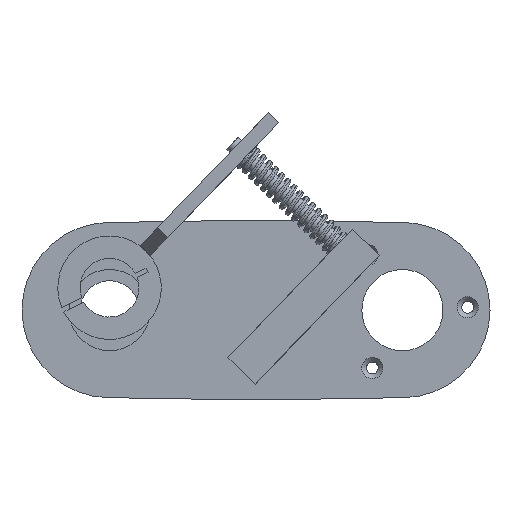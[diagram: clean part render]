
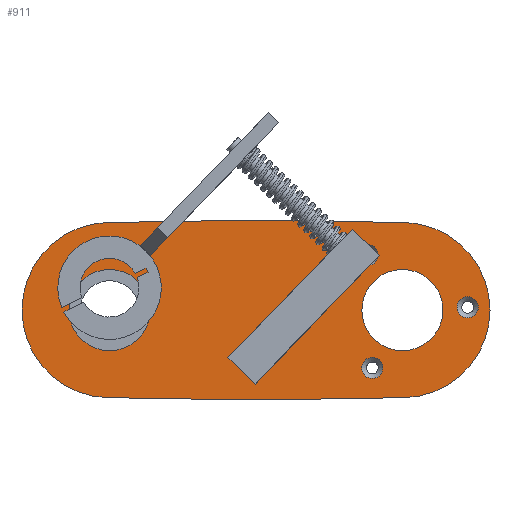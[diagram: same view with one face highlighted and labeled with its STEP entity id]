
A CAD part, front view. The second image highlights one B-rep face of the part: STEP entity #911.
In plain terms, the highlighted planar face has unit normal (0, -1, 0).
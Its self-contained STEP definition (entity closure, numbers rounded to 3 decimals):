
#15=FACE_BOUND('',#353,.T.);
#16=FACE_BOUND('',#354,.T.);
#17=FACE_BOUND('',#355,.T.);
#18=FACE_BOUND('',#356,.T.);
#19=FACE_BOUND('',#357,.T.);
#20=FACE_BOUND('',#358,.T.);
#69=LINE('',#8636,#143);
#70=LINE('',#8638,#144);
#71=LINE('',#8640,#145);
#72=LINE('',#8641,#146);
#143=VECTOR('',#1134,10.);
#144=VECTOR('',#1135,10.);
#145=VECTOR('',#1136,10.);
#146=VECTOR('',#1137,10.);
#216=PLANE('',#993);
#247=CIRCLE('',#991,4.5);
#249=CIRCLE('',#994,37.25);
#250=CIRCLE('',#995,2621.);
#251=CIRCLE('',#996,37.25);
#252=CIRCLE('',#997,2621.);
#253=CIRCLE('',#998,4.5);
#254=CIRCLE('',#999,17.25);
#255=CIRCLE('',#1000,17.25);
#256=CIRCLE('',#1001,4.5);
#294=FACE_OUTER_BOUND('',#352,.T.);
#352=EDGE_LOOP('',(#685,#686,#687,#688));
#353=EDGE_LOOP('',(#689));
#354=EDGE_LOOP('',(#690));
#355=EDGE_LOOP('',(#691));
#356=EDGE_LOOP('',(#692,#693,#694,#695));
#357=EDGE_LOOP('',(#696));
#358=EDGE_LOOP('',(#697));
#443=VERTEX_POINT('',#8614);
#445=VERTEX_POINT('',#8620);
#446=VERTEX_POINT('',#8621);
#447=VERTEX_POINT('',#8623);
#448=VERTEX_POINT('',#8625);
#449=VERTEX_POINT('',#8628);
#450=VERTEX_POINT('',#8630);
#451=VERTEX_POINT('',#8632);
#452=VERTEX_POINT('',#8634);
#453=VERTEX_POINT('',#8635);
#454=VERTEX_POINT('',#8637);
#455=VERTEX_POINT('',#8639);
#456=VERTEX_POINT('',#8642);
#534=EDGE_CURVE('',#443,#443,#247,.T.);
#537=EDGE_CURVE('',#445,#446,#249,.T.);
#538=EDGE_CURVE('',#446,#447,#250,.T.);
#539=EDGE_CURVE('',#447,#448,#251,.T.);
#540=EDGE_CURVE('',#448,#445,#252,.T.);
#541=EDGE_CURVE('',#449,#449,#253,.T.);
#542=EDGE_CURVE('',#450,#450,#254,.T.);
#543=EDGE_CURVE('',#451,#451,#255,.T.);
#544=EDGE_CURVE('',#452,#453,#69,.T.);
#545=EDGE_CURVE('',#453,#454,#70,.T.);
#546=EDGE_CURVE('',#454,#455,#71,.T.);
#547=EDGE_CURVE('',#455,#452,#72,.T.);
#548=EDGE_CURVE('',#456,#456,#256,.T.);
#685=ORIENTED_EDGE('',*,*,#537,.T.);
#686=ORIENTED_EDGE('',*,*,#538,.T.);
#687=ORIENTED_EDGE('',*,*,#539,.T.);
#688=ORIENTED_EDGE('',*,*,#540,.T.);
#689=ORIENTED_EDGE('',*,*,#541,.F.);
#690=ORIENTED_EDGE('',*,*,#542,.T.);
#691=ORIENTED_EDGE('',*,*,#543,.T.);
#692=ORIENTED_EDGE('',*,*,#544,.T.);
#693=ORIENTED_EDGE('',*,*,#545,.T.);
#694=ORIENTED_EDGE('',*,*,#546,.T.);
#695=ORIENTED_EDGE('',*,*,#547,.T.);
#696=ORIENTED_EDGE('',*,*,#548,.F.);
#697=ORIENTED_EDGE('',*,*,#534,.F.);
#911=ADVANCED_FACE('',(#294,#15,#16,#17,#18,#19,#20),#216,.T.);
#991=AXIS2_PLACEMENT_3D('',#8615,#1113,#1114);
#993=AXIS2_PLACEMENT_3D('',#8619,#1118,#1119);
#994=AXIS2_PLACEMENT_3D('',#8622,#1120,#1121);
#995=AXIS2_PLACEMENT_3D('',#8624,#1122,#1123);
#996=AXIS2_PLACEMENT_3D('',#8626,#1124,#1125);
#997=AXIS2_PLACEMENT_3D('',#8627,#1126,#1127);
#998=AXIS2_PLACEMENT_3D('',#8629,#1128,#1129);
#999=AXIS2_PLACEMENT_3D('',#8631,#1130,#1131);
#1000=AXIS2_PLACEMENT_3D('',#8633,#1132,#1133);
#1001=AXIS2_PLACEMENT_3D('',#8643,#1138,#1139);
#1113=DIRECTION('center_axis',(0.,-1.,0.));
#1114=DIRECTION('ref_axis',(1.,0.,0.));
#1118=DIRECTION('center_axis',(0.,-1.,0.));
#1119=DIRECTION('ref_axis',(1.,0.,0.));
#1120=DIRECTION('center_axis',(0.,-1.,0.));
#1121=DIRECTION('ref_axis',(-0.024,0.,1.));
#1122=DIRECTION('center_axis',(0.,-1.,0.));
#1123=DIRECTION('ref_axis',(-0.024,0.,-1.));
#1124=DIRECTION('center_axis',(0.,-1.,0.));
#1125=DIRECTION('ref_axis',(0.024,0.,-1.));
#1126=DIRECTION('center_axis',(0.,-1.,0.));
#1127=DIRECTION('ref_axis',(0.024,0.,1.));
#1128=DIRECTION('center_axis',(0.,-1.,0.));
#1129=DIRECTION('ref_axis',(1.,0.,0.));
#1130=DIRECTION('center_axis',(0.,1.,0.));
#1131=DIRECTION('ref_axis',(1.,0.,0.));
#1132=DIRECTION('center_axis',(0.,1.,0.));
#1133=DIRECTION('ref_axis',(1.,0.,0.));
#1134=DIRECTION('',(-0.719,0.,0.695));
#1135=DIRECTION('',(0.695,0.,0.719));
#1136=DIRECTION('',(0.719,0.,-0.695));
#1137=DIRECTION('',(-0.695,0.,-0.719));
#1138=DIRECTION('center_axis',(0.,-1.,0.));
#1139=DIRECTION('ref_axis',(1.,0.,0.));
#8614=CARTESIAN_POINT('',(147.724,-6.5,1.21));
#8615=CARTESIAN_POINT('Origin',(152.224,-6.5,1.21));
#8619=CARTESIAN_POINT('Origin',(62.25,-6.5,0.));
#8620=CARTESIAN_POINT('',(-0.897,-6.5,37.239));
#8621=CARTESIAN_POINT('',(-0.897,-6.5,-37.239));
#8622=CARTESIAN_POINT('Origin',(0.,-6.5,0.));
#8623=CARTESIAN_POINT('',(125.397,-6.5,-37.239));
#8624=CARTESIAN_POINT('Origin',(62.25,-6.5,2583.));
#8625=CARTESIAN_POINT('',(125.397,-6.5,37.239));
#8626=CARTESIAN_POINT('Origin',(124.5,-6.5,0.));
#8627=CARTESIAN_POINT('Origin',(62.25,-6.5,-2583.));
#8628=CARTESIAN_POINT('',(105.09,-6.5,23.404));
#8629=CARTESIAN_POINT('Origin',(109.59,-6.5,23.404));
#8630=CARTESIAN_POINT('',(-17.25,-6.5,0.));
#8631=CARTESIAN_POINT('Origin',(0.,-6.5,0.));
#8632=CARTESIAN_POINT('',(107.25,-6.5,0.));
#8633=CARTESIAN_POINT('Origin',(124.5,-6.5,0.));
#8634=CARTESIAN_POINT('',(61.851,-6.5,-31.467));
#8635=CARTESIAN_POINT('',(50.342,-6.5,-20.352));
#8636=CARTESIAN_POINT('',(48.338,-6.5,-18.417));
#8637=CARTESIAN_POINT('',(59.372,-6.5,-11.001));
#8638=CARTESIAN_POINT('',(62.815,-6.5,-7.435));
#8639=CARTESIAN_POINT('',(70.882,-6.5,-22.115));
#8640=CARTESIAN_POINT('',(63.123,-6.5,-14.623));
#8641=CARTESIAN_POINT('',(69.809,-6.5,-23.226));
#8642=CARTESIAN_POINT('',(107.186,-6.5,-24.615));
#8643=CARTESIAN_POINT('Origin',(111.686,-6.5,-24.615));
